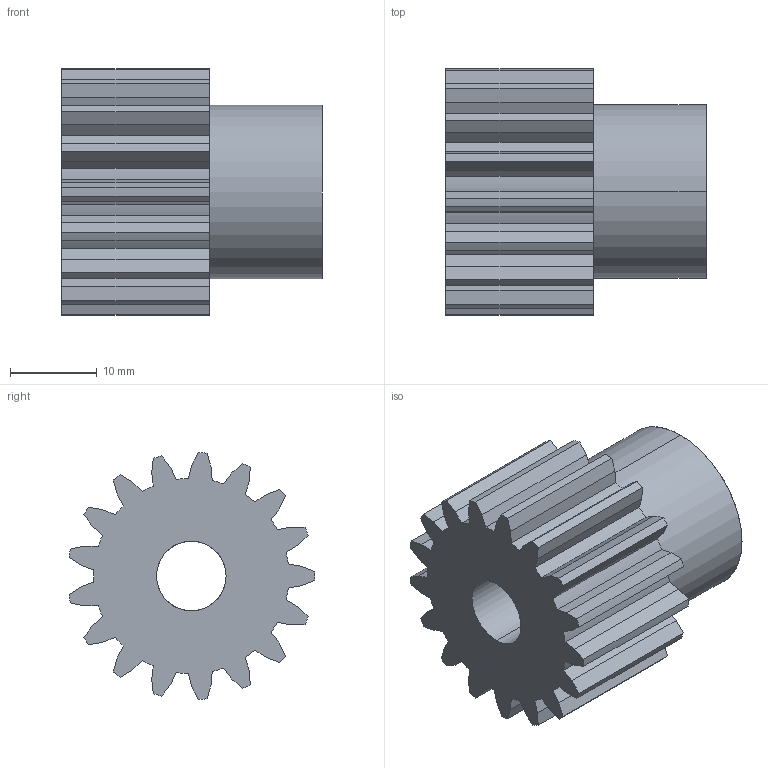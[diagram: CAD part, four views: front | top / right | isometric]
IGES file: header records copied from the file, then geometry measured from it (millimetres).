
Start section: SolidWorks IGES file using analytic representation for surfaces
Global section: file name: C:\Users\Honza\Desktop\Matis (Hotove)\Èelní ozubená kola\PM\MODUL 1,5\PM 27017.IGS; native system: SolidWorks 2010; preprocessor: SolidWorks 2010; author: Honza; date: 130924.115808; units: millimetre
Bounding box: 30 x 28.34 x 28.45 mm (x, y, z)
Surface area: 5027.7 mm2 (no closed solid volume)
Topology: 0 solids, 0 shells, 109 faces, 757 edges, 757 vertices
Faces by surface type: bspline 71, revolution 38
